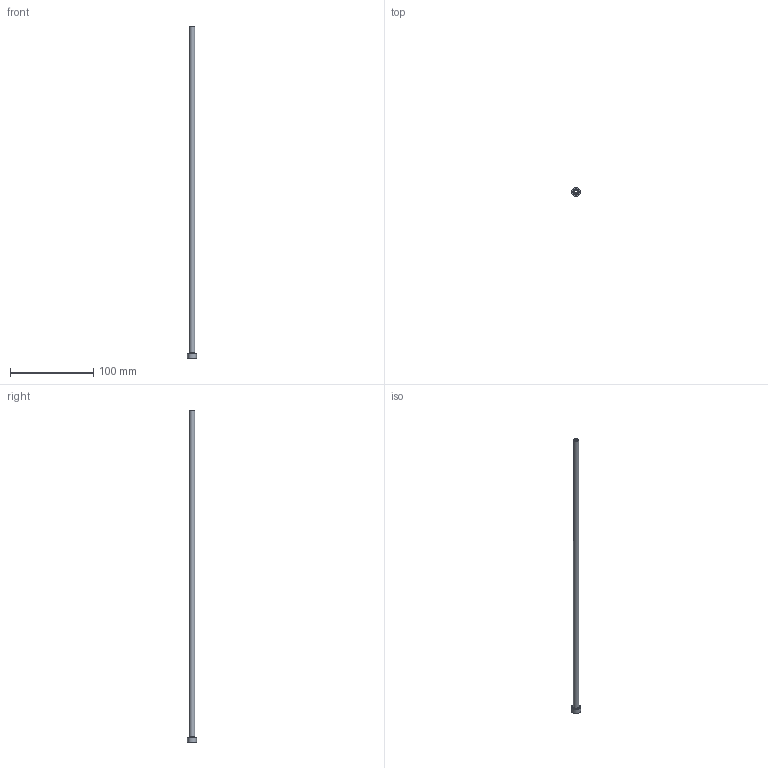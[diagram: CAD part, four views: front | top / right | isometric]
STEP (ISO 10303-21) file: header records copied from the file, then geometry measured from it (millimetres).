
FILE_DESCRIPTION (( 'STEP AP203' ), '1' );
FILE_NAME ('JES-4-65-400.STEP', '2017-06-21T16:56:07', ( '' ), ( '' ), 'SwSTEP 2.0', 'SolidWorks 2017', '' );
FILE_SCHEMA (( 'CONFIG_CONTROL_DESIGN' ));
Length unit declared in the file: millimetre
Products named in the file (1): JES-4-65-400
Bounding box: 11 x 11 x 400 mm (x, y, z)
Volume: 7783.3 mm3; surface area: 13826.3 mm2
Topology: 1 solids, 1 shells, 10 faces, 17 edges, 10 vertices
Faces by surface type: cylinder 4, plane 3, cone 2, torus 1
Full cylindrical faces by diameter (mm): 4 x1, 4.5 x1, 6.5 x1, 11 x1
Entity records: 285 total; most frequent: DIRECTION 42, CARTESIAN_POINT 31, AXIS2_PLACEMENT_3D 21, EDGE_LOOP 20, ORIENTED_EDGE 20, FACE_OUTER_BOUND 15, ADVANCED_FACE 10, CIRCLE 10
